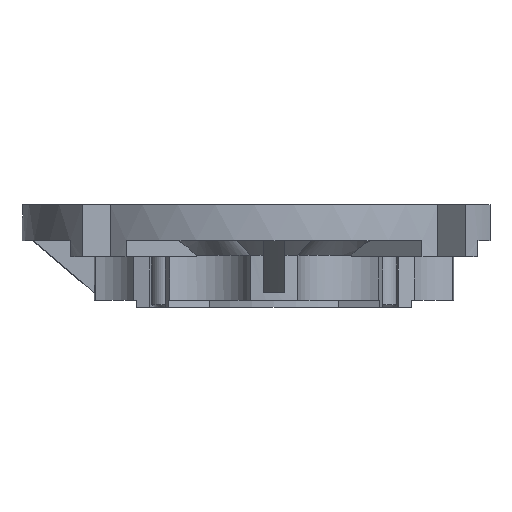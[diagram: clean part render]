
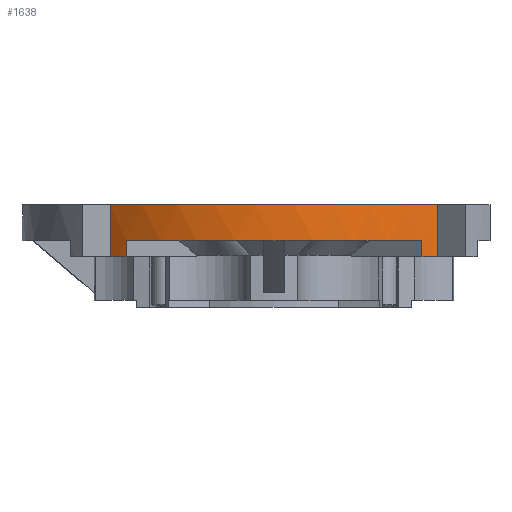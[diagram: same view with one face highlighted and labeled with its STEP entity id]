
A CAD part, front view. The second image highlights one B-rep face of the part: STEP entity #1638.
In plain terms, the highlighted cylindrical face has radius 70 mm (diameter 140 mm), a partial arc.
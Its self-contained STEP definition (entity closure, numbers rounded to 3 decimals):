
#1638=ADVANCED_FACE('',(#1825),#4782,.T.);
#1825=FACE_OUTER_BOUND('',#2019,.T.);
#2019=EDGE_LOOP('',(#2808,#2809,#2810,#2811,#2812,#2813,#2814,#2815));
#2808=ORIENTED_EDGE('',*,*,#3426,.T.);
#2809=ORIENTED_EDGE('',*,*,#3427,.T.);
#2810=ORIENTED_EDGE('',*,*,#3428,.T.);
#2811=ORIENTED_EDGE('',*,*,#3429,.T.);
#2812=ORIENTED_EDGE('',*,*,#3430,.T.);
#2813=ORIENTED_EDGE('',*,*,#3431,.T.);
#2814=ORIENTED_EDGE('',*,*,#3414,.T.);
#2815=ORIENTED_EDGE('',*,*,#3432,.T.);
#3414=EDGE_CURVE('',#4569,#4525,#4275,.T.);
#3426=EDGE_CURVE('',#4524,#4589,#4285,.T.);
#3427=EDGE_CURVE('',#4589,#4597,#3755,.T.);
#3428=EDGE_CURVE('',#4597,#4528,#4286,.T.);
#3429=EDGE_CURVE('',#4528,#4536,#3756,.T.);
#3430=EDGE_CURVE('',#4536,#4570,#4287,.T.);
#3431=EDGE_CURVE('',#4570,#4569,#3757,.T.);
#3432=EDGE_CURVE('',#4525,#4524,#3758,.T.);
#3755=TRIMMED_CURVE($,#3993,(#7969),(#7970),.T.,.CARTESIAN.);
#3756=TRIMMED_CURVE($,#3994,(#7974),(#7975),.T.,.CARTESIAN.);
#3757=TRIMMED_CURVE($,#3995,(#7979),(#7980),.T.,.CARTESIAN.);
#3758=TRIMMED_CURVE($,#3996,(#7982),(#7983),.T.,.CARTESIAN.);
#3993=CIRCLE('',#5354,70.);
#3994=CIRCLE('',#5355,70.);
#3995=CIRCLE('',#5356,70.);
#3996=CIRCLE('',#5357,70.);
#4275=B_SPLINE_CURVE_WITH_KNOTS('',1,(#7940,#7941),.UNSPECIFIED.,.F.,.F.,
(2,2),(-14.5,0.),.UNSPECIFIED.);
#4285=B_SPLINE_CURVE_WITH_KNOTS('',1,(#7966,#7967),.UNSPECIFIED.,.F.,.F.,
(2,2),(0.,14.5),.UNSPECIFIED.);
#4286=B_SPLINE_CURVE_WITH_KNOTS('',1,(#7971,#7972),.UNSPECIFIED.,.F.,.F.,
(2,2),(0.,4.5),.UNSPECIFIED.);
#4287=B_SPLINE_CURVE_WITH_KNOTS('',1,(#7976,#7977),.UNSPECIFIED.,.F.,.F.,
(2,2),(0.,4.5),.UNSPECIFIED.);
#4524=VERTEX_POINT('',#6881);
#4525=VERTEX_POINT('',#6882);
#4528=VERTEX_POINT('',#6885);
#4536=VERTEX_POINT('',#6893);
#4569=VERTEX_POINT('',#6926);
#4570=VERTEX_POINT('',#6927);
#4589=VERTEX_POINT('',#6946);
#4597=VERTEX_POINT('',#6954);
#4782=CYLINDRICAL_SURFACE('',#5162,70.);
#5162=AXIS2_PLACEMENT_3D('',#6590,#5559,$);
#5354=AXIS2_PLACEMENT_3D($,#7968,#5880,#5881);
#5355=AXIS2_PLACEMENT_3D($,#7973,#5882,#5883);
#5356=AXIS2_PLACEMENT_3D($,#7978,#5884,#5885);
#5357=AXIS2_PLACEMENT_3D($,#7981,#5886,#5887);
#5559=DIRECTION('',(-1.,0.,0.));
#5880=DIRECTION('',(1.,0.,0.));
#5881=DIRECTION('',(0.,0.76,-0.649));
#5882=DIRECTION('',(1.,0.,0.));
#5883=DIRECTION('',(0.,0.809,-0.587));
#5884=DIRECTION('',(1.,0.,0.));
#5885=DIRECTION('',(0.,0.809,0.587));
#5886=DIRECTION('',(-1.,0.,0.));
#5887=DIRECTION('',(0.,0.76,0.649));
#6590=CARTESIAN_POINT('',(21.25,0.,0.));
#6881=CARTESIAN_POINT('',(28.5,53.234,-45.455));
#6882=CARTESIAN_POINT('',(28.5,53.234,45.455));
#6885=CARTESIAN_POINT('',(18.5,56.661,-41.104));
#6893=CARTESIAN_POINT('',(18.5,56.661,41.104));
#6926=CARTESIAN_POINT('',(14.,53.234,45.455));
#6927=CARTESIAN_POINT('',(14.,56.661,41.104));
#6946=CARTESIAN_POINT('',(14.,53.234,-45.455));
#6954=CARTESIAN_POINT('',(14.,56.661,-41.104));
#7940=CARTESIAN_POINT('',(14.,53.234,45.455));
#7941=CARTESIAN_POINT('',(28.5,53.234,45.455));
#7966=CARTESIAN_POINT('',(28.5,53.234,-45.455));
#7967=CARTESIAN_POINT('',(14.,53.234,-45.455));
#7968=CARTESIAN_POINT('',(14.,0.,0.));
#7969=CARTESIAN_POINT('',(14.,53.234,-45.455));
#7970=CARTESIAN_POINT('',(14.,56.661,-41.104));
#7971=CARTESIAN_POINT('',(14.,56.661,-41.104));
#7972=CARTESIAN_POINT('',(18.5,56.661,-41.104));
#7973=CARTESIAN_POINT('',(18.5,0.,0.));
#7974=CARTESIAN_POINT('',(18.5,56.661,-41.104));
#7975=CARTESIAN_POINT('',(18.5,56.661,41.104));
#7976=CARTESIAN_POINT('',(18.5,56.661,41.104));
#7977=CARTESIAN_POINT('',(14.,56.661,41.104));
#7978=CARTESIAN_POINT('',(14.,0.,0.));
#7979=CARTESIAN_POINT('',(14.,56.661,41.104));
#7980=CARTESIAN_POINT('',(14.,53.234,45.455));
#7981=CARTESIAN_POINT('',(28.5,0.,0.));
#7982=CARTESIAN_POINT('',(28.5,53.234,45.455));
#7983=CARTESIAN_POINT('',(28.5,53.234,-45.455));
